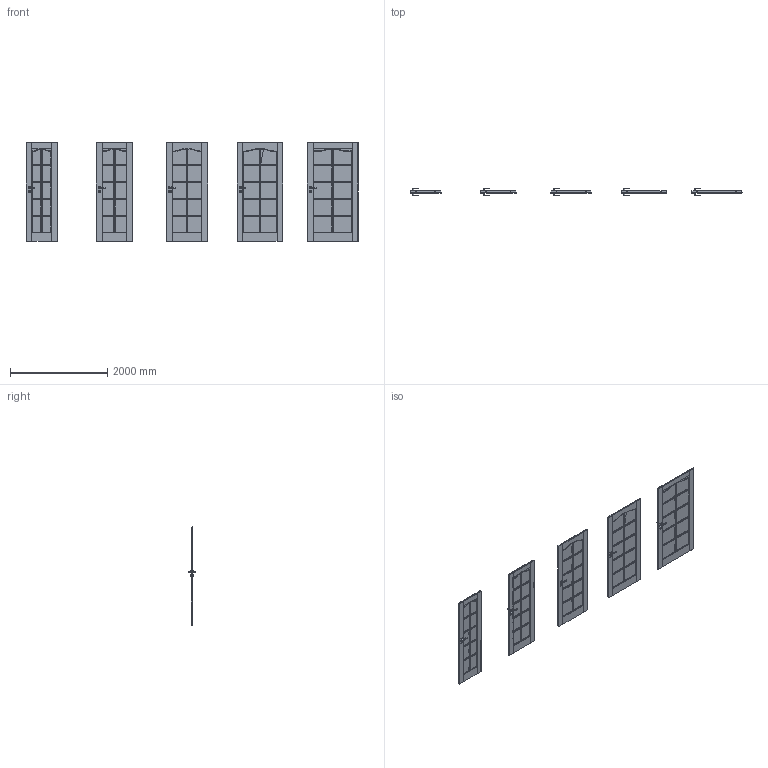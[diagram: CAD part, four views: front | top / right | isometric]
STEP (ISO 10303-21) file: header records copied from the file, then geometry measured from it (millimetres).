
FILE_DESCRIPTION(/* description */ (''),/* implementation_level */ '2;1');
FILE_NAME(/* name */ '050263_A_3-Skrzydło MADRYT model duży szpros_ polska norma _PN__ przylgowe..stp',/* time_stamp */ '2025-02-11T15:19:20+01:00',/* author */ (''),/* organization */ (''),/* preprocessor_version */ 'ST-DEVELOPER v16',/* originating_system */ 'SIEMENS PLM Software NX 11.0',/* authorisation */ '');
FILE_SCHEMA (('AUTOMOTIVE_DESIGN { 1 0 10303 214 3 1 1 1 }'));
Products named in the file (1): bkni8214278Biv3m
Bounding box: 6844 x 153.13 x 2030 mm (x, y, z)
Volume: 180330873.2 mm3; surface area: 23817729.4 mm2
Topology: 38 solids, 38 shells, 6551 faces, 17316 edges, 10131 vertices
Faces by surface type: plane 3398, cylinder 2251, bspline 762, sphere 140
Full cylindrical faces by diameter (mm): 12 x20
Entity records: 214966 total; most frequent: CARTESIAN_POINT 65514, ORIENTED_EDGE 34312, DIRECTION 26575, EDGE_CURVE 17156, LINE 11059, VECTOR 11059, VERTEX_POINT 10131, AXIS2_PLACEMENT_3D 7758
